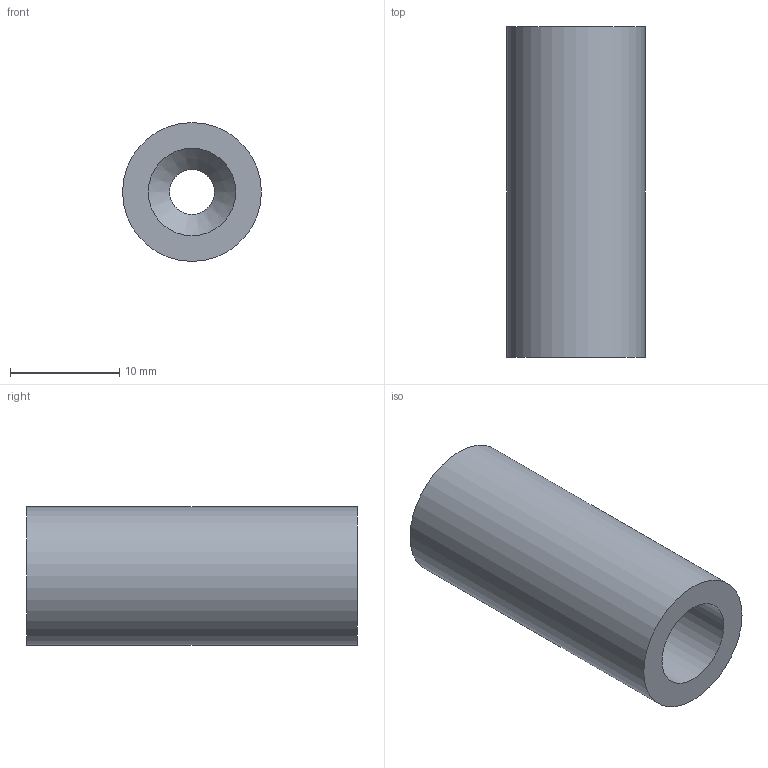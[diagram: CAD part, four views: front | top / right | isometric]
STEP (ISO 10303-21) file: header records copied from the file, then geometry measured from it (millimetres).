
FILE_DESCRIPTION(/* description */ (''),/* implementation_level */ '2;1');
FILE_NAME(/* name */ 'D:\~~GatCad\BWA - Ammo\BWA-Ammo V1.0\STEP\Primer Seating Tool Female.stp',/* time_stamp */ '2020-06-12T12:49:26-05:00',/* author */ ('johne'),/* organization */ (''),/* preprocessor_version */ 'ST-DEVELOPER v18',/* originating_system */ 'Autodesk Inventor 2020',/* authorisation */ '');
FILE_SCHEMA (('AUTOMOTIVE_DESIGN { 1 0 10303 214 3 1 1 }'));
Length unit declared in the file: millimetre
Products named in the file (1): Seating tool
Bounding box: 12.7 x 30.24 x 12.7 mm (x, y, z)
Volume: 2306.8 mm3; surface area: 2130.1 mm2
Topology: 1 solids, 1 shells, 8 faces, 18 edges, 13 vertices
Faces by surface type: cylinder 4, plane 3, cone 1
Full cylindrical faces by diameter (mm): 4.1 x1, 8 x1, 10.2 x1, 12.7 x1
Entity records: 284 total; most frequent: DIRECTION 49, CARTESIAN_POINT 40, ORIENTED_EDGE 36, AXIS2_PLACEMENT_3D 22, EDGE_CURVE 18, CIRCLE 13, VERTEX_POINT 13, EDGE_LOOP 11
